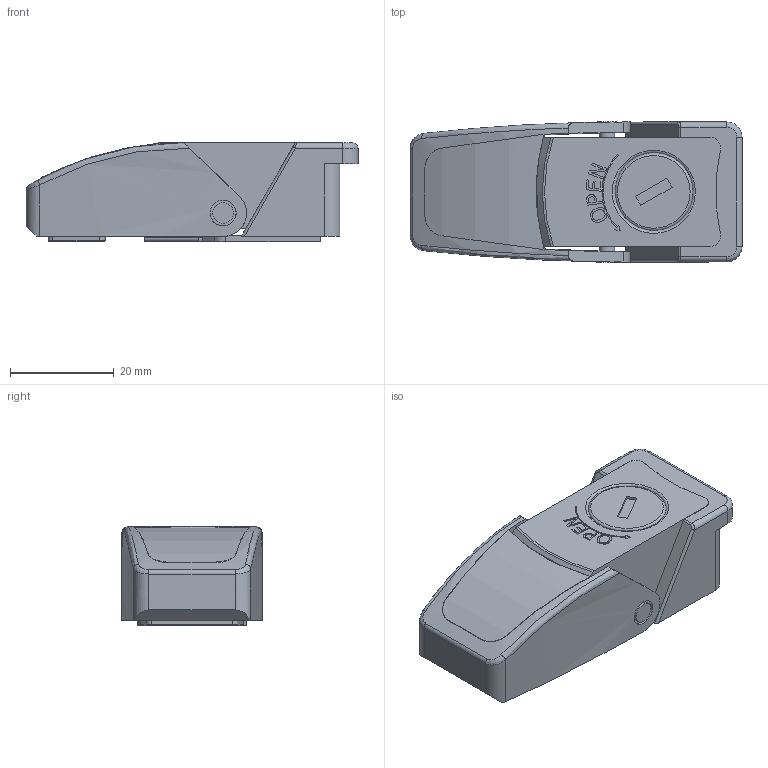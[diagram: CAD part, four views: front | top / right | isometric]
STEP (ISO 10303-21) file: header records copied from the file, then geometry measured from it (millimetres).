
FILE_DESCRIPTION(/* description */ (''),/* implementation_level */ '2;1');
FILE_NAME(/* name */ '\\NAS\db20\C-CS1-K-316\DR_C-CS1-K-316.stp',/* time_stamp */ '2018-03-01T10:26:53+09:00',/* author */ ('user'),/* organization */ (''),/* preprocessor_version */ 'ST-DEVELOPER v15.6',/* originating_system */ 'Autodesk Inventor 2015',/* authorisation */ '');
FILE_SCHEMA (('AUTOMOTIVE_DESIGN { 1 0 10303 214 3 1 1 }'));
Length unit declared in the file: millimetre
Products named in the file (5): DR_C-CS1-K-316-BR; DR_C-CS1-K-316-C; DR_C-CS1-K-316-H; DR_C-CS1-K-316-P; DR_C-CS1-K-316
Bounding box: 64 x 27 x 19.1 mm (x, y, z)
Volume: 12727.8 mm3; surface area: 15490.5 mm2
Topology: 7 solids, 7 shells, 343 faces, 860 edges, 544 vertices
Faces by surface type: plane 156, cylinder 116, bspline 31, torus 26, sphere 10, cone 4
Full cylindrical faces by diameter (mm): 3 x8, 3.5 x4, 4 x3, 5 x3, 5.5 x2, 8 x1, 15 x2, 16 x1
Entity records: 10867 total; most frequent: CARTESIAN_POINT 2757, ORIENTED_EDGE 1634, DIRECTION 1625, EDGE_CURVE 816, AXIS2_PLACEMENT_3D 582, VERTEX_POINT 534, LINE 461, VECTOR 461
